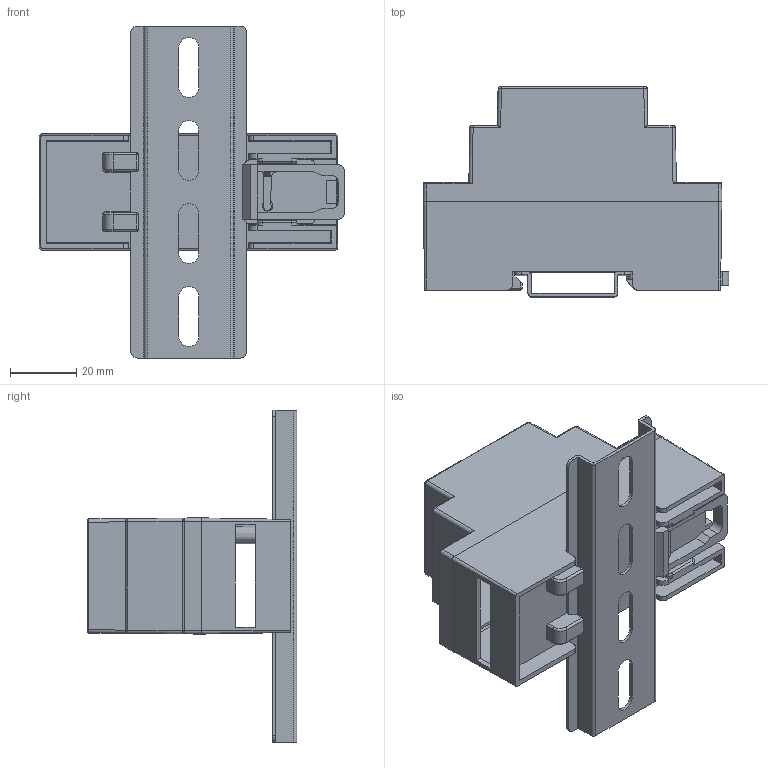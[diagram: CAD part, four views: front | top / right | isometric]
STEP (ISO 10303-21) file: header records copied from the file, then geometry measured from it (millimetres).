
FILE_DESCRIPTION (( 'STEP AP203' ), '1' );
FILE_NAME ('RT-1202-B.STEP', '2024-04-03T07:44:02', ( '' ), ( '' ), 'SwSTEP 2.0', 'SolidWorks 2021', '' );
FILE_SCHEMA (( 'CONFIG_CONTROL_DESIGN' ));
Length unit declared in the file: millimetre
Products named in the file (6): 2,5mm_vida; DIN_rayi_rev1; RT-1202-B; ust_govde; alt_taban; A-102
Assembly tree (5 placements, depth 2):
  RT-1202-B
    alt_taban
    ust_govde
    A-102
    DIN_rayi_rev1
    2,5mm_vida
Bounding box: 92.06 x 63.2 x 100 mm (x, y, z)
Volume: 35611.8 mm3; surface area: 48653.5 mm2
Topology: 5 solids, 5 shells, 571 faces, 1579 edges, 1030 vertices
Faces by surface type: plane 312, cylinder 132, bspline 61, cone 58, sphere 6, torus 2
Entity records: 21807 total; most frequent: CARTESIAN_POINT 7035, ORIENTED_EDGE 3158, DIRECTION 2681, EDGE_CURVE 1579, LINE 1047, VECTOR 1047, VERTEX_POINT 1030, AXIS2_PLACEMENT_3D 817
